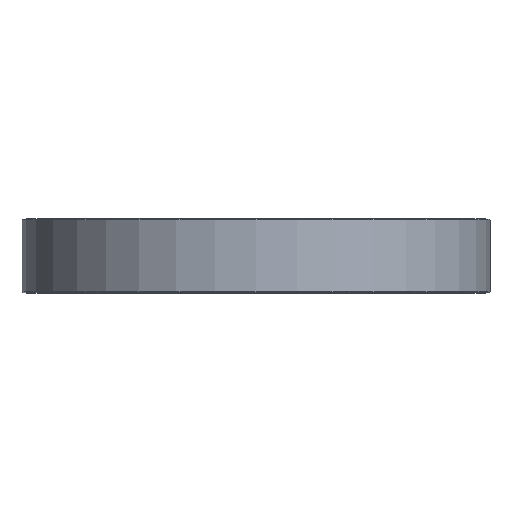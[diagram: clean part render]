
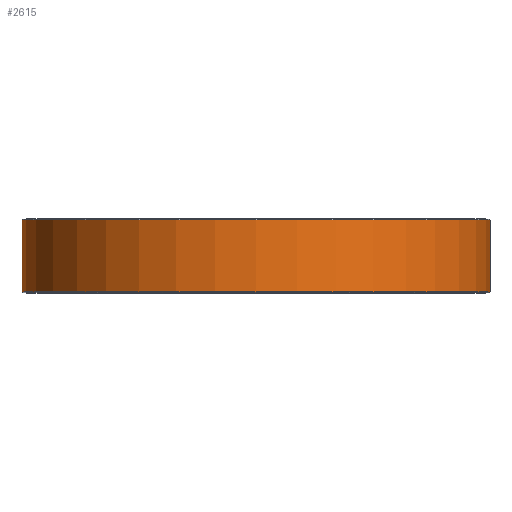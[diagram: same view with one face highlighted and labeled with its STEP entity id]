
A CAD part, top view. The second image highlights one B-rep face of the part: STEP entity #2615.
In plain terms, the highlighted cylindrical face has radius 47.5 mm (diameter 95 mm), a partial arc.
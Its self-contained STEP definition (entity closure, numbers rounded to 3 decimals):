
#1615=VERTEX_POINT('',#3887);
#1817=EDGE_CURVE('',#2669,#1615,#4113,.T.);
#1831=VERTEX_POINT('',#4128);
#1855=EDGE_CURVE('',#2887,#1937,#4156,.T.);
#1921=EDGE_CURVE('',#1615,#2887,#4229,.T.);
#1937=VERTEX_POINT('',#4246);
#2061=EDGE_CURVE('',#2669,#2267,#4384,.T.);
#2267=VERTEX_POINT('',#4620);
#2407=EDGE_CURVE('',#1831,#2267,#4787,.T.);
#2615=ADVANCED_FACE('',(#5025),#5026,.T.);
#2669=VERTEX_POINT('',#5089);
#2887=VERTEX_POINT('',#5333);
#3275=EDGE_CURVE('',#1937,#1831,#5770,.T.);
#3887=CARTESIAN_POINT('',(0.,0.2,47.5));
#4113=CIRCLE('',#6820,47.5);
#4128=CARTESIAN_POINT('',(0.,14.8,47.5));
#4156=LINE('',#6866,#6867);
#4229=CIRCLE('',#6964,47.5);
#4246=CARTESIAN_POINT('',(-47.5,14.8,0.0));
#4384=LINE('',#7162,#7163);
#4620=CARTESIAN_POINT('',(47.5,14.8,0.));
#4787=CIRCLE('',#7685,47.5);
#5025=FACE_OUTER_BOUND('',#7979,.T.);
#5026=CYLINDRICAL_SURFACE('',#7980,47.5);
#5089=CARTESIAN_POINT('',(47.5,0.2,0.));
#5333=CARTESIAN_POINT('',(-47.5,0.2,0.0));
#5770=CIRCLE('',#8938,47.5);
#6820=AXIS2_PLACEMENT_3D('',#9913,#9914,#9915);
#6866=CARTESIAN_POINT('',(-47.5,0.2,0.));
#6867=VECTOR('',#9963,14.6);
#6964=AXIS2_PLACEMENT_3D('',#10058,#10059,#10060);
#7162=CARTESIAN_POINT('',(47.5,0.2,0.));
#7163=VECTOR('',#10253,14.6);
#7685=AXIS2_PLACEMENT_3D('',#10803,#10804,#10805);
#7979=EDGE_LOOP('',(#11133,#11134,#11135,#11136,#11137,#11138));
#7980=AXIS2_PLACEMENT_3D('',#11139,#11140,#11141);
#8938=AXIS2_PLACEMENT_3D('',#12092,#12093,#12094);
#9913=CARTESIAN_POINT('',(0.0,0.2,0.0));
#9914=DIRECTION('',(0.0,-1.0,0.0));
#9915=DIRECTION('',(1.0,0.0,0.0));
#9963=DIRECTION('',(0.0,1.0,0.0));
#10058=CARTESIAN_POINT('',(0.0,0.2,0.0));
#10059=DIRECTION('',(0.0,-1.0,0.0));
#10060=DIRECTION('',(1.0,0.0,0.0));
#10253=DIRECTION('',(0.0,1.0,0.0));
#10803=CARTESIAN_POINT('',(0.0,14.8,0.0));
#10804=DIRECTION('',(0.0,1.0,0.0));
#10805=DIRECTION('',(-1.0,0.0,0.0));
#11133=ORIENTED_EDGE('',*,*,#1855,.F.);
#11134=ORIENTED_EDGE('',*,*,#1921,.F.);
#11135=ORIENTED_EDGE('',*,*,#1817,.F.);
#11136=ORIENTED_EDGE('',*,*,#2061,.T.);
#11137=ORIENTED_EDGE('',*,*,#2407,.F.);
#11138=ORIENTED_EDGE('',*,*,#3275,.F.);
#11139=CARTESIAN_POINT('',(0.0,0.0,0.0));
#11140=DIRECTION('',(-0.0,1.0,-0.0));
#11141=DIRECTION('',(1.0,0.0,0.0));
#12092=CARTESIAN_POINT('',(0.0,14.8,0.0));
#12093=DIRECTION('',(0.0,1.0,0.0));
#12094=DIRECTION('',(-1.0,0.0,0.0));
